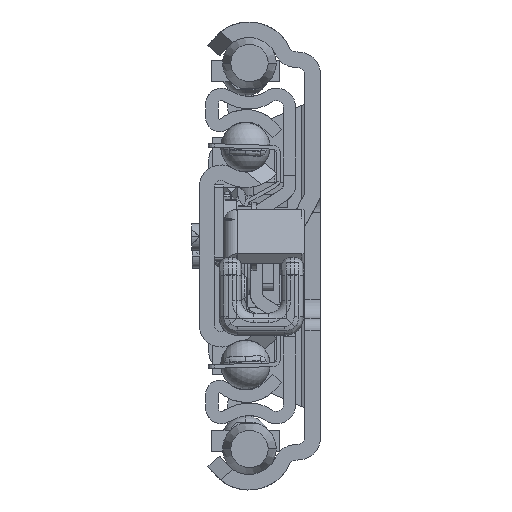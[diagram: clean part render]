
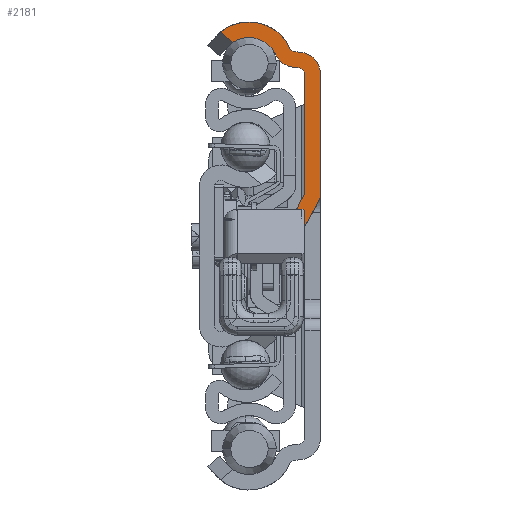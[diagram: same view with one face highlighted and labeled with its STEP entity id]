
A CAD part, left-side view. The second image highlights one B-rep face of the part: STEP entity #2181.
In plain terms, the highlighted planar face has unit normal (-1, 0, 0).
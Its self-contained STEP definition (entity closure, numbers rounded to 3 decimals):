
#1=DIRECTION('',(0.,-0.769,-0.639));
#2=VECTOR('',#1,2.575);
#3=CARTESIAN_POINT('',(0.,16.079,36.021));
#4=LINE('',#3,#2);
#5=CARTESIAN_POINT('',(0.,11.5,30.4));
#6=DIRECTION('',(1.,0.,0.));
#7=DIRECTION('',(0.,0.632,0.775));
#8=AXIS2_PLACEMENT_3D('',#5,#6,#7);
#10=DIRECTION('',(0.,-0.996,-0.087));
#11=VECTOR('',#10,0.904);
#12=CARTESIAN_POINT('',(0.,4.095,32.858));
#13=LINE('',#12,#11);
#14=CARTESIAN_POINT('',(0.,3.5,29.293));
#15=DIRECTION('',(-1.,0.,0.));
#16=DIRECTION('',(0.,-1.,0.));
#17=AXIS2_PLACEMENT_3D('',#14,#15,#16);
#19=CARTESIAN_POINT('',(0.,2.5,9.942));
#20=DIRECTION('',(1.,0.,0.));
#21=DIRECTION('',(0.,-1.,0.));
#22=AXIS2_PLACEMENT_3D('',#19,#20,#21);
#24=DIRECTION('',(0.,-1.,0.));
#25=VECTOR('',#24,2.78);
#26=CARTESIAN_POINT('',(0.,6.177,3.04));
#27=LINE('',#26,#25);
#28=CARTESIAN_POINT('',(0.,0.5,1.099));
#29=DIRECTION('',(-1.,0.,0.));
#30=DIRECTION('',(0.,0.879,0.477));
#31=AXIS2_PLACEMENT_3D('',#28,#29,#30);
#33=DIRECTION('',(0.,0.477,-0.879));
#34=VECTOR('',#33,6.873);
#35=CARTESIAN_POINT('',(0.,2.5,10.));
#36=LINE('',#35,#34);
#37=DIRECTION('',(0.,0.,1.));
#38=VECTOR('',#37,19.293);
#39=CARTESIAN_POINT('',(0.,2.5,10.));
#40=LINE('',#39,#38);
#41=DIRECTION('',(0.,0.996,0.087));
#42=VECTOR('',#41,0.904);
#43=CARTESIAN_POINT('',(0.,3.413,30.289));
#44=LINE('',#43,#42);
#45=CARTESIAN_POINT('',(0.,4.008,33.854));
#46=DIRECTION('',(-1.,0.,0.));
#47=DIRECTION('',(0.,0.908,-0.419));
#48=AXIS2_PLACEMENT_3D('',#45,#46,#47);
#50=CARTESIAN_POINT('',(0.,11.5,30.4));
#51=DIRECTION('',(-1.,0.,0.));
#52=DIRECTION('',(0.,-0.908,0.419));
#53=AXIS2_PLACEMENT_3D('',#50,#51,#52);
#99=CARTESIAN_POINT('',(0.,14.098,34.377));
#148=CARTESIAN_POINT('',(0.,3.5,29.293));
#149=DIRECTION('',(1.,0.,0.));
#150=DIRECTION('',(0.,-0.087,0.996));
#151=AXIS2_PLACEMENT_3D('',#148,#149,#150);
#576=DIRECTION('',(0.,0.,1.));
#577=VECTOR('',#576,19.351);
#578=CARTESIAN_POINT('',(0.,0.,9.942));
#579=LINE('',#578,#577);
#879=CARTESIAN_POINT('',(0.,16.079,36.021));
#1319=CARTESIAN_POINT('',(0.,4.008,33.854));
#1320=DIRECTION('',(1.,0.,0.));
#1321=DIRECTION('',(0.,0.087,-0.996));
#1322=AXIS2_PLACEMENT_3D('',#1319,#1320,#1321);
#1416=CARTESIAN_POINT('',(0.,3.397,3.04));
#1421=DIRECTION('',(0.,-0.477,0.879));
#1422=VECTOR('',#1421,6.495);
#1423=CARTESIAN_POINT('',(0.,3.397,3.04));
#1424=LINE('',#1423,#1422);
#1669=CARTESIAN_POINT('',(0.,3.413,30.289));
#1670=CARTESIAN_POINT('',(0.,2.5,29.293));
#1671=VERTEX_POINT('',#1669);
#1672=VERTEX_POINT('',#1670);
#1673=CARTESIAN_POINT('',(0.,4.095,32.858));
#1674=CARTESIAN_POINT('',(0.,4.916,33.436));
#1675=VERTEX_POINT('',#1673);
#1676=VERTEX_POINT('',#1674);
#1685=CARTESIAN_POINT('',(0.,7.186,32.389));
#1686=CARTESIAN_POINT('',(0.,4.313,30.368));
#1687=VERTEX_POINT('',#1685);
#1688=VERTEX_POINT('',#1686);
#1689=CARTESIAN_POINT('',(0.,0.,29.293));
#1690=CARTESIAN_POINT('',(0.,3.195,32.78));
#1691=VERTEX_POINT('',#1689);
#1692=VERTEX_POINT('',#1690);
#1785=CARTESIAN_POINT('',(0.,2.5,10.));
#1786=VERTEX_POINT('',#1785);
#1847=CARTESIAN_POINT('',(0.,0.,9.942));
#1849=VERTEX_POINT('',#1847);
#1852=CARTESIAN_POINT('',(0.,0.302,8.751));
#1853=VERTEX_POINT('',#1852);
#1856=CARTESIAN_POINT('',(0.,5.775,3.958));
#1857=VERTEX_POINT('',#1856);
#1858=CARTESIAN_POINT('',(0.,6.177,3.04));
#1859=VERTEX_POINT('',#1858);
#1862=VERTEX_POINT('',#1416);
#2124=VERTEX_POINT('',#99);
#2132=VERTEX_POINT('',#879);
#2142=CARTESIAN_POINT('',(0.,0.,0.));
#2143=DIRECTION('',(1.,0.,0.));
#2144=DIRECTION('',(0.,-1.,0.));
#2145=AXIS2_PLACEMENT_3D('',#2142,#2143,#2144);
#2146=PLANE('',#2145);
#2148=ORIENTED_EDGE('',*,*,#2147,.F.);
#2150=ORIENTED_EDGE('',*,*,#2149,.T.);
#2152=ORIENTED_EDGE('',*,*,#2151,.F.);
#2154=ORIENTED_EDGE('',*,*,#2153,.T.);
#2156=ORIENTED_EDGE('',*,*,#2155,.F.);
#2158=ORIENTED_EDGE('',*,*,#2157,.F.);
#2160=ORIENTED_EDGE('',*,*,#2159,.T.);
#2162=ORIENTED_EDGE('',*,*,#2161,.F.);
#2164=ORIENTED_EDGE('',*,*,#2163,.F.);
#2166=ORIENTED_EDGE('',*,*,#2165,.F.);
#2168=ORIENTED_EDGE('',*,*,#2167,.F.);
#2170=ORIENTED_EDGE('',*,*,#2169,.T.);
#2172=ORIENTED_EDGE('',*,*,#2171,.F.);
#2174=ORIENTED_EDGE('',*,*,#2173,.T.);
#2176=ORIENTED_EDGE('',*,*,#2175,.F.);
#2178=ORIENTED_EDGE('',*,*,#2177,.T.);
#2179=EDGE_LOOP('',(#2148,#2150,#2152,#2154,#2156,#2158,#2160,#2162,#2164,#2166,
#2168,#2170,#2172,#2174,#2176,#2178));
#2180=FACE_OUTER_BOUND('',#2179,.F.);
#9=CIRCLE('',#8,7.25);
#18=CIRCLE('',#17,3.5);
#23=CIRCLE('',#22,2.5);
#32=CIRCLE('',#31,6.);
#49=CIRCLE('',#48,3.5);
#54=CIRCLE('',#53,4.75);
#152=CIRCLE('',#151,1.);
#1323=CIRCLE('',#1322,1.);
#2147=EDGE_CURVE('',#2132,#2124,#4,.T.);
#2149=EDGE_CURVE('',#2132,#1676,#9,.T.);
#2151=EDGE_CURVE('',#1675,#1676,#1323,.T.);
#2153=EDGE_CURVE('',#1675,#1692,#13,.T.);
#2155=EDGE_CURVE('',#1691,#1692,#18,.T.);
#2157=EDGE_CURVE('',#1849,#1691,#579,.T.);
#2159=EDGE_CURVE('',#1849,#1853,#23,.T.);
#2161=EDGE_CURVE('',#1862,#1853,#1424,.T.);
#2163=EDGE_CURVE('',#1859,#1862,#27,.T.);
#2165=EDGE_CURVE('',#1857,#1859,#32,.T.);
#2167=EDGE_CURVE('',#1786,#1857,#36,.T.);
#2169=EDGE_CURVE('',#1786,#1672,#40,.T.);
#2171=EDGE_CURVE('',#1671,#1672,#152,.T.);
#2173=EDGE_CURVE('',#1671,#1688,#44,.T.);
#2175=EDGE_CURVE('',#1687,#1688,#49,.T.);
#2177=EDGE_CURVE('',#1687,#2124,#54,.T.);
#2181=ADVANCED_FACE('',(#2180),#2146,.F.);
